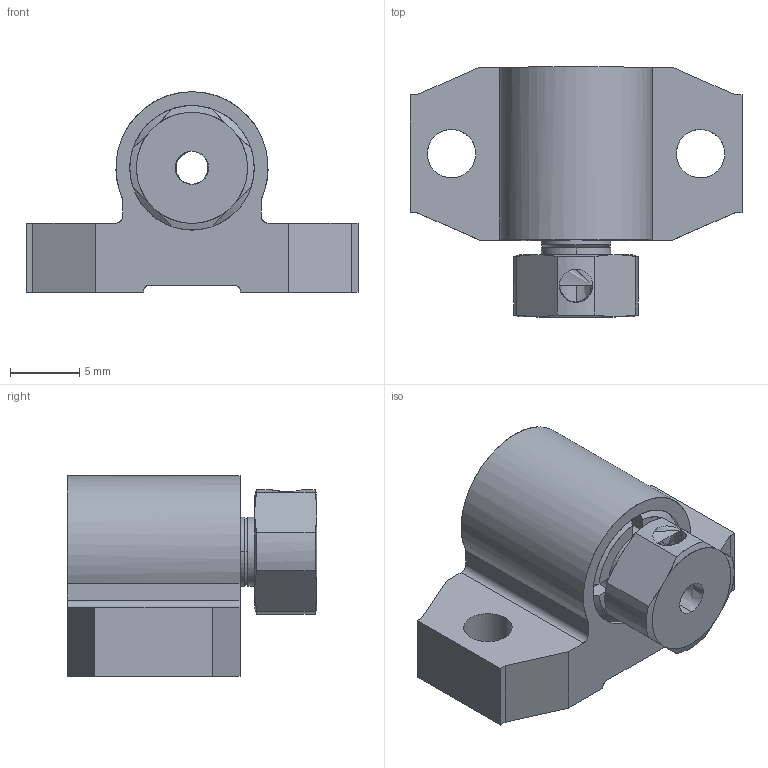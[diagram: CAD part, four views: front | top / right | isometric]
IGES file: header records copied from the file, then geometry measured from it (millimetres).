
Global section: native system: Kubotek KeyCreator; preprocessor: KCM Version 1.1.1442.0; author: KeyCreator User; organization: Self; date: 20210430.045356; units: millimetre
Bounding box: 24 x 18.06 x 14.5 mm (x, y, z)
Surface area: 1875.1 mm2 (no closed solid volume)
Topology: 0 solids, 0 shells, 105 faces, 666 edges, 666 vertices
Faces by surface type: bspline 105
